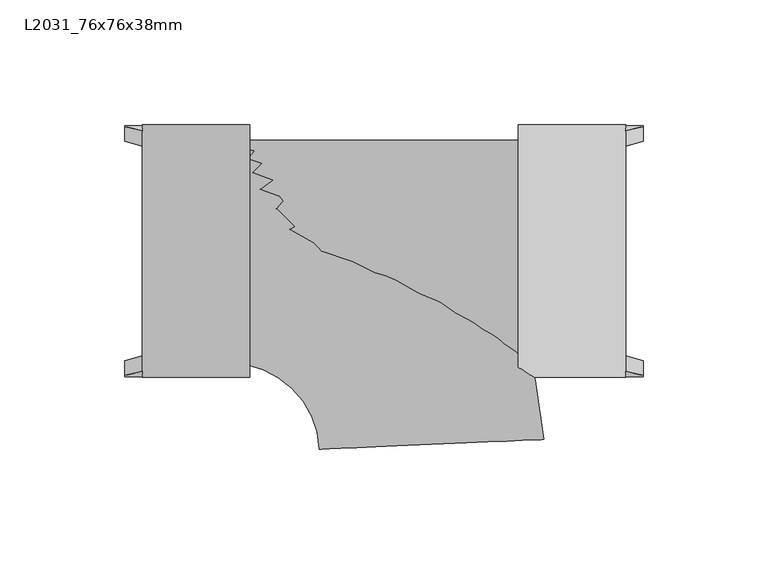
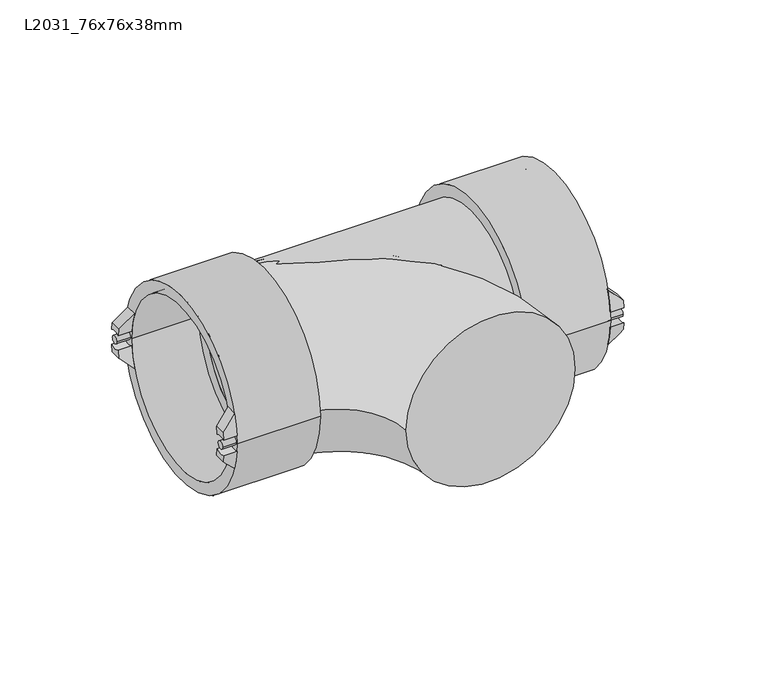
"""IFC4 building model written with IfcOpenShell, lengths in millimetres: pipe fitting geometry, Durapipe_PipeFitting_VulcatheneEnfusion_ReducingSweepTee_L20 : L2031_76x76x38mm."""

from ifc_helpers import new_model, si_unit, point, frame, frame_2d, origin, place, context, project, spatial, polyline, circle_curve, ellipse_curve, trimmed, segment, composite_curve, outline, extrude, source, transform, mapped, element, save
from ifc_brep_helpers import plane_surface, cylinder_surface, revolved_surface, advanced_brep


def l2031_76x76x38mm_b17d972e(model_context):
    return source(origin(), model_context, "Body", "SolidModel", [
        advanced_brep(
        [(-119.6406311, -44.4771742, 3.9247261), (-119.6406311, -50.3271742, 4.1743906), (-119.6406311, -49.8718999, 7.94), (-119.6406311, -43.9383534, 7.94), (-112.5406311, -48.2208461, 15.0), (-112.5406311, -50.3271742, 4.1743906), (-112.5406311, -44.4771742, 3.9247261), (-112.5406311, -42.0549938, 15.0)],
        [
            (0, 1, circle_curve(frame((-119.6406311, -47.575, 0.0), z_axis=(1.0, 0.0, 0.0), x_axis=(0.0, 1.0, 0.0)), 5.0)),
            (1, 2, circle_curve(frame((-119.6406311, 0.0, 0.0), z_axis=(-1.0, 0.0, 0.0), x_axis=(0.0, 1.0, 0.0)), 50.5)),
            (2, 3),
            (3, 0, circle_curve(frame((-119.6406311, 0.0, 0.0), z_axis=(1.0, 0.0, 0.0), x_axis=(0.0, 1.0, 0.0)), 44.65)),
            (4, 5, circle_curve(frame((-112.5406311, 0.0, 0.0), z_axis=(1.0, 0.0, 0.0), x_axis=(0.0, 1.0, 0.0)), 50.5)),
            (5, 6, circle_curve(frame((-112.5406311, -47.575, 0.0), z_axis=(-1.0, 0.0, 0.0), x_axis=(0.0, 1.0, 0.0)), 5.0)),
            (6, 7, circle_curve(frame((-112.5406311, 0.0, 0.0), z_axis=(-1.0, 0.0, 0.0), x_axis=(0.0, 1.0, 0.0)), 44.65)),
            (7, 4),
            (6, 0),
            (3, 7, ellipse_curve(frame((-127.625617, 0.0, 0.0), z_axis=(-0.705106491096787, 0.0, 0.7091014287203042), x_axis=(0.7091014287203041, 0.0, 0.705106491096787)), 63.3237682, 44.65)),
            (4, 2, ellipse_curve(frame((-127.625617, 0.0, 0.0), z_axis=(0.705106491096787, 0.0, -0.7091014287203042), x_axis=(-0.7091014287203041, 0.0, -0.705106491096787)), 71.6203873, 50.5)),
            (1, 5),
        ],
        [
            plane_surface(frame((-119.6406311, -48.2208461, 15.0), z_axis=(-1.0, 0.0, 0.0), x_axis=(0.0, 1.0, 0.0))),
            plane_surface(frame((-112.5406311, -48.2208461, 15.0), z_axis=(1.0, 0.0, 0.0), x_axis=(0.0, -1.0, 0.0))),
            revolved_surface(polyline([(-82.72264249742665, 44.65, 0.0), (-172.52859150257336, 44.65, 0.0)]), (-112.5406311, 0.0, 0.0), (1.0, 0.0, 0.0)),
            cylinder_surface(frame((-112.5406311, 0.0, 0.0), z_axis=(-1.0, 0.0, 0.0), x_axis=(0.0, 1.0, 0.0)), 50.5),
            revolved_surface(polyline([(-119.6406311, -42.575, 0.0), (-112.5406311, -42.575, 0.0)]), (-112.5406311, -47.575, 0.0), (-1.0, 0.0, 0.0)),
            plane_surface(frame((-112.5406311, 50.5, 15.0), z_axis=(-0.705106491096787, 0.0, 0.7091014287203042), x_axis=(0.0, -1.0, 0.0))),
        ],
        [
            (0, [[1, 2, 3, 4]]),
            (1, [[5, 6, 7, 8]]),
            (2, [[-7, 9, -4, 10]]),
            (3, [[-5, 11, -2, 12]]),
            (4, [[-1, -9, -6, -12]]),
            (5, [[-3, -11, -8, -10]]),
        ],
    ),
        advanced_brep(
        [(-119.6406311, -50.3271742, -4.1743906), (-119.6406311, -44.4771742, -3.9247261), (-119.6406311, -43.9383534, -7.94), (-119.6406311, -49.8718999, -7.94), (-112.5406311, -50.3271742, -4.1743906), (-112.5406311, -48.2208461, -15.0), (-112.5406311, -42.0549938, -15.0), (-112.5406311, -44.4771742, -3.9247261)],
        [
            (0, 1, circle_curve(frame((-119.6406311, -47.575, 0.0), z_axis=(1.0, 0.0, 0.0), x_axis=(0.0, 1.0, 0.0)), 5.0)),
            (1, 2, circle_curve(frame((-119.6406311, 0.0, 0.0), z_axis=(1.0, 0.0, 0.0), x_axis=(0.0, 1.0, 0.0)), 44.65)),
            (2, 3),
            (3, 0, circle_curve(frame((-119.6406311, 0.0, 0.0), z_axis=(-1.0, 0.0, 0.0), x_axis=(0.0, 1.0, 0.0)), 50.5)),
            (4, 5, circle_curve(frame((-112.5406311, 0.0, 0.0), z_axis=(1.0, 0.0, 0.0), x_axis=(0.0, 1.0, 0.0)), 50.5)),
            (5, 6),
            (6, 7, circle_curve(frame((-112.5406311, 0.0, 0.0), z_axis=(-1.0, 0.0, 0.0), x_axis=(0.0, 1.0, 0.0)), 44.65)),
            (7, 4, circle_curve(frame((-112.5406311, -47.575, 0.0), z_axis=(-1.0, 0.0, 0.0), x_axis=(0.0, 1.0, 0.0)), 5.0)),
            (6, 2, ellipse_curve(frame((-127.625617, 0.0, 0.0), z_axis=(-0.7051064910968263, 0.0, -0.7091014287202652), x_axis=(0.7091014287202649, 0.0, -0.7051064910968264)), 63.3237682, 44.65)),
            (1, 7),
            (4, 0),
            (3, 5, ellipse_curve(frame((-127.625617, 0.0, 0.0), z_axis=(0.7051064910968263, 0.0, 0.7091014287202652), x_axis=(-0.7091014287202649, 0.0, 0.7051064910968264)), 71.6203873, 50.5)),
        ],
        [
            plane_surface(frame((-119.6406311, -48.2208461, 15.0), z_axis=(-1.0, 0.0, 0.0), x_axis=(0.0, 1.0, 0.0))),
            plane_surface(frame((-112.5406311, -48.2208461, 15.0), z_axis=(1.0, 0.0, 0.0), x_axis=(0.0, -1.0, 0.0))),
            revolved_surface(polyline([(-82.72264249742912, 44.65, 0.0), (-172.5285915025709, 44.65, 0.0)]), (-112.5406311, 0.0, 0.0), (1.0, 0.0, 0.0)),
            cylinder_surface(frame((-112.5406311, 0.0, 0.0), z_axis=(-1.0, 0.0, 0.0), x_axis=(0.0, 1.0, 0.0)), 50.5),
            revolved_surface(polyline([(-119.6406311, -42.575, 0.0), (-112.5406311, -42.575, 0.0)]), (-112.5406311, -47.575, 0.0), (-1.0, 0.0, 0.0)),
            plane_surface(frame((-119.6406311, 50.5, -7.94), z_axis=(-0.7051064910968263, 0.0, -0.7091014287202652), x_axis=(0.0, -1.0, 0.0))),
        ],
        [
            (0, [[1, 2, 3, 4]]),
            (1, [[5, 6, 7, 8]]),
            (2, [[-7, 9, -2, 10]]),
            (3, [[-5, 11, -4, 12]]),
            (4, [[-1, -11, -8, -10]]),
            (5, [[-3, -9, -6, -12]]),
        ],
    ),
        advanced_brep(
        [(-119.6406311, 50.3271742, 4.1743906), (-119.6406311, 44.4771742, 3.9247261), (-119.6406311, 43.9383534, 7.94), (-119.6406311, 49.8718999, 7.94), (-112.5406311, 50.3271742, 4.1743906), (-112.5406311, 48.2208461, 15.0), (-112.5406311, 42.0549938, 15.0), (-112.5406311, 44.4771742, 3.9247261)],
        [
            (0, 1, circle_curve(frame((-119.6406311, 47.575, 0.0), z_axis=(1.0, 0.0, 0.0), x_axis=(0.0, 1.0, 0.0)), 5.0)),
            (1, 2, circle_curve(frame((-119.6406311, 0.0, 0.0), z_axis=(1.0, 0.0, 0.0), x_axis=(0.0, 1.0, 0.0)), 44.65)),
            (2, 3),
            (3, 0, circle_curve(frame((-119.6406311, 0.0, 0.0), z_axis=(-1.0, 0.0, 0.0), x_axis=(0.0, 1.0, 0.0)), 50.5)),
            (4, 5, circle_curve(frame((-112.5406311, 0.0, 0.0), z_axis=(1.0, 0.0, 0.0), x_axis=(0.0, 1.0, 0.0)), 50.5)),
            (5, 6),
            (6, 7, circle_curve(frame((-112.5406311, 0.0, 0.0), z_axis=(-1.0, 0.0, 0.0), x_axis=(0.0, 1.0, 0.0)), 44.65)),
            (7, 4, circle_curve(frame((-112.5406311, 47.575, 0.0), z_axis=(-1.0, 0.0, 0.0), x_axis=(0.0, 1.0, 0.0)), 5.0)),
            (6, 2, ellipse_curve(frame((-127.625617, 0.0, 0.0), z_axis=(-0.705106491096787, 0.0, 0.7091014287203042), x_axis=(0.7091014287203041, 0.0, 0.705106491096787)), 63.3237682, 44.65)),
            (1, 7),
            (4, 0),
            (3, 5, ellipse_curve(frame((-127.625617, 0.0, 0.0), z_axis=(0.705106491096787, 0.0, -0.7091014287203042), x_axis=(-0.7091014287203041, 0.0, -0.705106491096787)), 71.6203873, 50.5)),
        ],
        [
            plane_surface(frame((-119.6406311, -48.2208461, 15.0), z_axis=(-1.0, 0.0, 0.0), x_axis=(0.0, 1.0, 0.0))),
            plane_surface(frame((-112.5406311, -48.2208461, 15.0), z_axis=(1.0, 0.0, 0.0), x_axis=(0.0, -1.0, 0.0))),
            revolved_surface(polyline([(-82.72264249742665, 44.65, 0.0), (-172.52859150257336, 44.65, 0.0)]), (-112.5406311, 0.0, 0.0), (1.0, 0.0, 0.0)),
            cylinder_surface(frame((-112.5406311, 0.0, 0.0), z_axis=(-1.0, 0.0, 0.0), x_axis=(0.0, 1.0, 0.0)), 50.5),
            revolved_surface(polyline([(-119.6406311, 52.575, 0.0), (-112.5406311, 52.575, 0.0)]), (-112.5406311, 47.575, 0.0), (-1.0, 0.0, 0.0)),
            plane_surface(frame((-112.5406311, 50.5, 15.0), z_axis=(-0.705106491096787, 0.0, 0.7091014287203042), x_axis=(0.0, -1.0, 0.0))),
        ],
        [
            (0, [[1, 2, 3, 4]]),
            (1, [[5, 6, 7, 8]]),
            (2, [[-7, 9, -2, 10]]),
            (3, [[-5, 11, -4, 12]]),
            (4, [[-1, -11, -8, -10]]),
            (5, [[-3, -9, -6, -12]]),
        ],
    ),
        advanced_brep(
        [(-119.6406311, 44.4771742, -3.9247261), (-119.6406311, 50.3271742, -4.1743906), (-119.6406311, 49.8718999, -7.94), (-119.6406311, 43.9383534, -7.94), (-112.5406311, 48.2208461, -15.0), (-112.5406311, 50.3271742, -4.1743906), (-112.5406311, 44.4771742, -3.9247261), (-112.5406311, 42.0549938, -15.0)],
        [
            (0, 1, circle_curve(frame((-119.6406311, 47.575, 0.0), z_axis=(1.0, 0.0, 0.0), x_axis=(0.0, 1.0, 0.0)), 5.0)),
            (1, 2, circle_curve(frame((-119.6406311, 0.0, 0.0), z_axis=(-1.0, 0.0, 0.0), x_axis=(0.0, 1.0, 0.0)), 50.5)),
            (2, 3),
            (3, 0, circle_curve(frame((-119.6406311, 0.0, 0.0), z_axis=(1.0, 0.0, 0.0), x_axis=(0.0, 1.0, 0.0)), 44.65)),
            (4, 5, circle_curve(frame((-112.5406311, 0.0, 0.0), z_axis=(1.0, 0.0, 0.0), x_axis=(0.0, 1.0, 0.0)), 50.5)),
            (5, 6, circle_curve(frame((-112.5406311, 47.575, 0.0), z_axis=(-1.0, 0.0, 0.0), x_axis=(0.0, 1.0, 0.0)), 5.0)),
            (6, 7, circle_curve(frame((-112.5406311, 0.0, 0.0), z_axis=(-1.0, 0.0, 0.0), x_axis=(0.0, 1.0, 0.0)), 44.65)),
            (7, 4),
            (6, 0),
            (3, 7, ellipse_curve(frame((-127.625617, 0.0, 0.0), z_axis=(-0.7051064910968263, 0.0, -0.7091014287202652), x_axis=(0.7091014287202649, 0.0, -0.7051064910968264)), 63.3237682, 44.65)),
            (4, 2, ellipse_curve(frame((-127.625617, 0.0, 0.0), z_axis=(0.7051064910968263, 0.0, 0.7091014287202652), x_axis=(-0.7091014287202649, 0.0, 0.7051064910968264)), 71.6203873, 50.5)),
            (1, 5),
        ],
        [
            plane_surface(frame((-119.6406311, -48.2208461, 15.0), z_axis=(-1.0, 0.0, 0.0), x_axis=(0.0, 1.0, 0.0))),
            plane_surface(frame((-112.5406311, -48.2208461, 15.0), z_axis=(1.0, 0.0, 0.0), x_axis=(0.0, -1.0, 0.0))),
            revolved_surface(polyline([(-82.72264249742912, 44.65, 0.0), (-172.5285915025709, 44.65, 0.0)]), (-112.5406311, 0.0, 0.0), (1.0, 0.0, 0.0)),
            cylinder_surface(frame((-112.5406311, 0.0, 0.0), z_axis=(-1.0, 0.0, 0.0), x_axis=(0.0, 1.0, 0.0)), 50.5),
            revolved_surface(polyline([(-119.6406311, 52.575, 0.0), (-112.5406311, 52.575, 0.0)]), (-112.5406311, 47.575, 0.0), (-1.0, 0.0, 0.0)),
            plane_surface(frame((-119.6406311, 50.5, -7.94), z_axis=(-0.7051064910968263, 0.0, -0.7091014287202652), x_axis=(0.0, -1.0, 0.0))),
        ],
        [
            (0, [[1, 2, 3, 4]]),
            (1, [[5, 6, 7, 8]]),
            (2, [[-7, 9, -4, 10]]),
            (3, [[-5, 11, -2, 12]]),
            (4, [[-1, -9, -6, -12]]),
            (5, [[-3, -11, -8, -10]]),
        ],
    ),
        extrude(outline(composite_curve([segment(trimmed(circle_curve(frame_2d((-47.575, 0.0)), 2.0), [point((-49.575, 0.0))], [point((-45.575, 0.0))], False, "CARTESIAN"), True, "CONTINUOUS"), segment(trimmed(circle_curve(frame_2d((-47.575, 0.0)), 2.0), [point((-45.575, 0.0))], [point((-49.575, 0.0))], False, "CARTESIAN"), True, "CONTINUOUS")], self_intersect=False)), frame((-119.6406311, 0.0, 0.0), z_axis=(1.0, 0.0, 0.0), x_axis=(0.0, 1.0, 0.0)), (0.0, 0.0, 1.0), 7.1),
        extrude(outline(composite_curve([segment(trimmed(circle_curve(frame_2d((47.575, 0.0)), 2.0), [point((45.575, 0.0))], [point((49.575, 0.0))], False, "CARTESIAN"), True, "CONTINUOUS"), segment(trimmed(circle_curve(frame_2d((47.575, 0.0)), 2.0), [point((49.575, 0.0))], [point((45.575, 0.0))], False, "CARTESIAN"), True, "CONTINUOUS")], self_intersect=False)), frame((-119.6406311, 0.0, 0.0), z_axis=(1.0, 0.0, 0.0), x_axis=(0.0, 1.0, 0.0)), (0.0, 0.0, 1.0), 7.1),
        advanced_brep(
        [(-77.5406311, -38.0, 0.0), (-77.5406311, 38.0, 0.0), (-77.5406311, 44.5, 0.0), (-77.5406311, -44.5, 0.0), (-69.5406311, -38.0, 0.0), (-69.5406311, 38.0, 0.0), (-69.5406311, -50.65, 0.0), (-69.5406311, 50.65, 0.0), (-112.5406311, -50.65, 0.0), (-112.5406311, 50.65, 0.0), (-112.5406311, -44.5, 0.0), (-112.5406311, 44.5, 0.0)],
        [
            (0, 1, circle_curve(frame((-77.5406311, 0.0, 0.0), z_axis=(1.0, 0.0, 0.0), x_axis=(0.0, 1.0, 0.0)), 38.0)),
            (1, 2),
            (2, 3, circle_curve(frame((-77.5406311, 0.0, 0.0), z_axis=(-1.0, 0.0, 0.0), x_axis=(0.0, 1.0, 0.0)), 44.5)),
            (3, 0),
            (1, 0, circle_curve(frame((-77.5406311, 0.0, 0.0), z_axis=(1.0, 0.0, 0.0), x_axis=(0.0, 1.0, 0.0)), 38.0)),
            (3, 2, circle_curve(frame((-77.5406311, 0.0, 0.0), z_axis=(-1.0, 0.0, 0.0), x_axis=(0.0, 1.0, 0.0)), 44.5)),
            (4, 5, circle_curve(frame((-69.5406311, 0.0, 0.0), z_axis=(1.0, 0.0, 0.0), x_axis=(0.0, 1.0, 0.0)), 38.0)),
            (5, 1),
            (0, 4),
            (5, 4, circle_curve(frame((-69.5406311, 0.0, 0.0), z_axis=(1.0, 0.0, 0.0), x_axis=(0.0, 1.0, 0.0)), 38.0)),
            (6, 7, circle_curve(frame((-69.5406311, 0.0, 0.0), z_axis=(1.0, 0.0, 0.0), x_axis=(0.0, 1.0, 0.0)), 50.65)),
            (7, 5),
            (4, 6),
            (7, 6, circle_curve(frame((-69.5406311, 0.0, 0.0), z_axis=(1.0, 0.0, 0.0), x_axis=(0.0, 1.0, 0.0)), 50.65)),
            (8, 9, circle_curve(frame((-112.5406311, 0.0, 0.0), z_axis=(1.0, 0.0, 0.0), x_axis=(0.0, 1.0, 0.0)), 50.65)),
            (9, 7),
            (6, 8),
            (9, 8, circle_curve(frame((-112.5406311, 0.0, 0.0), z_axis=(1.0, 0.0, 0.0), x_axis=(0.0, 1.0, 0.0)), 50.65)),
            (10, 11, circle_curve(frame((-112.5406311, 0.0, 0.0), z_axis=(1.0, 0.0, 0.0), x_axis=(0.0, 1.0, 0.0)), 44.5)),
            (11, 9),
            (8, 10),
            (11, 10, circle_curve(frame((-112.5406311, 0.0, 0.0), z_axis=(1.0, 0.0, 0.0), x_axis=(0.0, 1.0, 0.0)), 44.5)),
            (2, 11),
            (10, 3),
        ],
        [
            plane_surface(frame((-77.5406311, 0.0, 0.0), z_axis=(-1.0, 0.0, 0.0), x_axis=(0.0, 1.0, 0.0))),
            revolved_surface(polyline([(-77.54063110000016, 38.0, 0.0), (-69.54063110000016, 38.0, 0.0)]), (-2626.5232552, 0.0, 0.0), (-1.0, 0.0, 0.0)),
            plane_surface(frame((-69.5406311, 0.0, 0.0), z_axis=(1.0, 0.0, 0.0), x_axis=(0.0, 1.0, 0.0))),
            cylinder_surface(frame((-2626.5232552, 0.0, 0.0), z_axis=(-1.0, 0.0, 0.0), x_axis=(0.0, 1.0, 0.0)), 50.65),
            plane_surface(frame((-112.5406311, 0.0, 0.0), z_axis=(-1.0, 0.0, 0.0), x_axis=(0.0, 1.0, 0.0))),
            revolved_surface(polyline([(-112.54063110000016, 44.5, 0.0), (-77.54063110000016, 44.5, 0.0)]), (-2626.5232552, 0.0, 0.0), (-1.0, 0.0, 0.0)),
        ],
        [
            (0, [[1, 2, 3, 4]]),
            (0, [[5, -4, 6, -2]]),
            (1, [[7, 8, -1, 9]]),
            (1, [[10, -9, -5, -8]]),
            (2, [[11, 12, -7, 13]]),
            (2, [[14, -13, -10, -12]]),
            (3, [[15, 16, -11, 17]]),
            (3, [[18, -17, -14, -16]]),
            (4, [[19, 20, -15, 21]]),
            (4, [[22, -21, -18, -20]]),
            (5, [[-3, 23, -19, 24]]),
            (5, [[-6, -24, -22, -23]]),
        ],
    ),
        advanced_brep(
        [(88.2593689, -44.4771742, -3.9247261), (88.2593689, -50.3271742, -4.1743906), (88.2593689, -49.8718999, -7.94), (88.2593689, -43.9383534, -7.94), (81.1593689, -48.2208461, -15.0), (81.1593689, -50.3271742, -4.1743906), (81.1593689, -44.4771742, -3.9247261), (81.1593689, -42.0549938, -15.0)],
        [
            (0, 1, circle_curve(frame((88.2593689, -47.575, 0.0), z_axis=(-1.0, 0.0, 0.0), x_axis=(0.0, 1.0, 0.0)), 5.0)),
            (1, 2, circle_curve(frame((88.2593689, 0.0, 0.0), z_axis=(1.0, 0.0, 0.0), x_axis=(0.0, 1.0, 0.0)), 50.5)),
            (2, 3),
            (3, 0, circle_curve(frame((88.2593689, 0.0, 0.0), z_axis=(-1.0, 0.0, 0.0), x_axis=(0.0, 1.0, 0.0)), 44.65)),
            (4, 5, circle_curve(frame((81.1593689, 0.0, 0.0), z_axis=(-1.0, 0.0, 0.0), x_axis=(0.0, 1.0, 0.0)), 50.5)),
            (5, 6, circle_curve(frame((81.1593689, -47.575, 0.0), z_axis=(1.0, 0.0, 0.0), x_axis=(0.0, 1.0, 0.0)), 5.0)),
            (6, 7, circle_curve(frame((81.1593689, 0.0, 0.0), z_axis=(1.0, 0.0, 0.0), x_axis=(0.0, 1.0, 0.0)), 44.65)),
            (7, 4),
            (6, 0),
            (3, 7, ellipse_curve(frame((96.2443547, 0.0, 0.0), z_axis=(0.705106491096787, 0.0, -0.7091014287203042), x_axis=(-0.7091014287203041, 0.0, -0.705106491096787)), 63.3237682, 44.65)),
            (4, 2, ellipse_curve(frame((96.2443547, 0.0, 0.0), z_axis=(-0.705106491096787, 0.0, 0.7091014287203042), x_axis=(0.7091014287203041, 0.0, 0.705106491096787)), 71.6203873, 50.5)),
            (1, 5),
        ],
        [
            plane_surface(frame((88.2593689, -48.2208461, -15.0), z_axis=(1.0, 0.0, 0.0), x_axis=(0.0, 1.0, 0.0))),
            plane_surface(frame((81.1593689, -48.2208461, -15.0), z_axis=(-1.0, 0.0, 0.0), x_axis=(0.0, -1.0, 0.0))),
            revolved_surface(polyline([(51.34138019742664, 44.65, 0.0), (141.14732920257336, 44.65, 0.0)]), (81.1593689, 0.0, 0.0), (-1.0, 0.0, 0.0)),
            cylinder_surface(frame((81.1593689, 0.0, 0.0), z_axis=(1.0, 0.0, 0.0), x_axis=(0.0, 1.0, 0.0)), 50.5),
            revolved_surface(polyline([(88.2593689, -42.575, 0.0), (81.1593689, -42.575, 0.0)]), (81.1593689, -47.575, 0.0), (1.0, 0.0, 0.0)),
            plane_surface(frame((81.1593689, 50.5, -15.0), z_axis=(0.705106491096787, 0.0, -0.7091014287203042), x_axis=(0.0, -1.0, 0.0))),
        ],
        [
            (0, [[1, 2, 3, 4]]),
            (1, [[5, 6, 7, 8]]),
            (2, [[-7, 9, -4, 10]]),
            (3, [[-5, 11, -2, 12]]),
            (4, [[-1, -9, -6, -12]]),
            (5, [[-3, -11, -8, -10]]),
        ],
    ),
        advanced_brep(
        [(88.2593689, -50.3271742, 4.1743906), (88.2593689, -44.4771742, 3.9247261), (88.2593689, -43.9383534, 7.94), (88.2593689, -49.8718999, 7.94), (81.1593689, -50.3271742, 4.1743906), (81.1593689, -48.2208461, 15.0), (81.1593689, -42.0549938, 15.0), (81.1593689, -44.4771742, 3.9247261)],
        [
            (0, 1, circle_curve(frame((88.2593689, -47.575, 0.0), z_axis=(-1.0, 0.0, 0.0), x_axis=(0.0, 1.0, 0.0)), 5.0)),
            (1, 2, circle_curve(frame((88.2593689, 0.0, 0.0), z_axis=(-1.0, 0.0, 0.0), x_axis=(0.0, 1.0, 0.0)), 44.65)),
            (2, 3),
            (3, 0, circle_curve(frame((88.2593689, 0.0, 0.0), z_axis=(1.0, 0.0, 0.0), x_axis=(0.0, 1.0, 0.0)), 50.5)),
            (4, 5, circle_curve(frame((81.1593689, 0.0, 0.0), z_axis=(-1.0, 0.0, 0.0), x_axis=(0.0, 1.0, 0.0)), 50.5)),
            (5, 6),
            (6, 7, circle_curve(frame((81.1593689, 0.0, 0.0), z_axis=(1.0, 0.0, 0.0), x_axis=(0.0, 1.0, 0.0)), 44.65)),
            (7, 4, circle_curve(frame((81.1593689, -47.575, 0.0), z_axis=(1.0, 0.0, 0.0), x_axis=(0.0, 1.0, 0.0)), 5.0)),
            (6, 2, ellipse_curve(frame((96.2443547, 0.0, 0.0), z_axis=(0.7051064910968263, 0.0, 0.7091014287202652), x_axis=(-0.7091014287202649, 0.0, 0.7051064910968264)), 63.3237682, 44.65)),
            (1, 7),
            (4, 0),
            (3, 5, ellipse_curve(frame((96.2443547, 0.0, 0.0), z_axis=(-0.7051064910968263, 0.0, -0.7091014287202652), x_axis=(0.7091014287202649, 0.0, -0.7051064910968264)), 71.6203873, 50.5)),
        ],
        [
            plane_surface(frame((88.2593689, -48.2208461, -15.0), z_axis=(1.0, 0.0, 0.0), x_axis=(0.0, 1.0, 0.0))),
            plane_surface(frame((81.1593689, -48.2208461, -15.0), z_axis=(-1.0, 0.0, 0.0), x_axis=(0.0, -1.0, 0.0))),
            revolved_surface(polyline([(51.34138019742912, 44.65, 0.0), (141.1473292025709, 44.65, 0.0)]), (81.1593689, 0.0, 0.0), (-1.0, 0.0, 0.0)),
            cylinder_surface(frame((81.1593689, 0.0, 0.0), z_axis=(1.0, 0.0, 0.0), x_axis=(0.0, 1.0, 0.0)), 50.5),
            revolved_surface(polyline([(88.2593689, -42.575, 0.0), (81.1593689, -42.575, 0.0)]), (81.1593689, -47.575, 0.0), (1.0, 0.0, 0.0)),
            plane_surface(frame((88.2593689, 50.5, 7.94), z_axis=(0.7051064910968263, 0.0, 0.7091014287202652), x_axis=(0.0, -1.0, 0.0))),
        ],
        [
            (0, [[1, 2, 3, 4]]),
            (1, [[5, 6, 7, 8]]),
            (2, [[-7, 9, -2, 10]]),
            (3, [[-5, 11, -4, 12]]),
            (4, [[-1, -11, -8, -10]]),
            (5, [[-3, -9, -6, -12]]),
        ],
    ),
        advanced_brep(
        [(88.2593689, 50.3271742, -4.1743906), (88.2593689, 44.4771742, -3.9247261), (88.2593689, 43.9383534, -7.94), (88.2593689, 49.8718999, -7.94), (81.1593689, 50.3271742, -4.1743906), (81.1593689, 48.2208461, -15.0), (81.1593689, 42.0549938, -15.0), (81.1593689, 44.4771742, -3.9247261)],
        [
            (0, 1, circle_curve(frame((88.2593689, 47.575, 0.0), z_axis=(-1.0, 0.0, 0.0), x_axis=(0.0, 1.0, 0.0)), 5.0)),
            (1, 2, circle_curve(frame((88.2593689, 0.0, 0.0), z_axis=(-1.0, 0.0, 0.0), x_axis=(0.0, 1.0, 0.0)), 44.65)),
            (2, 3),
            (3, 0, circle_curve(frame((88.2593689, 0.0, 0.0), z_axis=(1.0, 0.0, 0.0), x_axis=(0.0, 1.0, 0.0)), 50.5)),
            (4, 5, circle_curve(frame((81.1593689, 0.0, 0.0), z_axis=(-1.0, 0.0, 0.0), x_axis=(0.0, 1.0, 0.0)), 50.5)),
            (5, 6),
            (6, 7, circle_curve(frame((81.1593689, 0.0, 0.0), z_axis=(1.0, 0.0, 0.0), x_axis=(0.0, 1.0, 0.0)), 44.65)),
            (7, 4, circle_curve(frame((81.1593689, 47.575, 0.0), z_axis=(1.0, 0.0, 0.0), x_axis=(0.0, 1.0, 0.0)), 5.0)),
            (6, 2, ellipse_curve(frame((96.2443547, 0.0, 0.0), z_axis=(0.705106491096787, 0.0, -0.7091014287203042), x_axis=(-0.7091014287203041, 0.0, -0.705106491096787)), 63.3237682, 44.65)),
            (1, 7),
            (4, 0),
            (3, 5, ellipse_curve(frame((96.2443547, 0.0, 0.0), z_axis=(-0.705106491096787, 0.0, 0.7091014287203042), x_axis=(0.7091014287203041, 0.0, 0.705106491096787)), 71.6203873, 50.5)),
        ],
        [
            plane_surface(frame((88.2593689, -48.2208461, -15.0), z_axis=(1.0, 0.0, 0.0), x_axis=(0.0, 1.0, 0.0))),
            plane_surface(frame((81.1593689, -48.2208461, -15.0), z_axis=(-1.0, 0.0, 0.0), x_axis=(0.0, -1.0, 0.0))),
            revolved_surface(polyline([(51.34138019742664, 44.65, 0.0), (141.14732920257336, 44.65, 0.0)]), (81.1593689, 0.0, 0.0), (-1.0, 0.0, 0.0)),
            cylinder_surface(frame((81.1593689, 0.0, 0.0), z_axis=(1.0, 0.0, 0.0), x_axis=(0.0, 1.0, 0.0)), 50.5),
            revolved_surface(polyline([(88.2593689, 52.575, 0.0), (81.1593689, 52.575, 0.0)]), (81.1593689, 47.575, 0.0), (1.0, 0.0, 0.0)),
            plane_surface(frame((81.1593689, 50.5, -15.0), z_axis=(0.705106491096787, 0.0, -0.7091014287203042), x_axis=(0.0, -1.0, 0.0))),
        ],
        [
            (0, [[1, 2, 3, 4]]),
            (1, [[5, 6, 7, 8]]),
            (2, [[-7, 9, -2, 10]]),
            (3, [[-5, 11, -4, 12]]),
            (4, [[-1, -11, -8, -10]]),
            (5, [[-3, -9, -6, -12]]),
        ],
    ),
        advanced_brep(
        [(88.2593689, 44.4771742, 3.9247261), (88.2593689, 50.3271742, 4.1743906), (88.2593689, 49.8718999, 7.94), (88.2593689, 43.9383534, 7.94), (81.1593689, 48.2208461, 15.0), (81.1593689, 50.3271742, 4.1743906), (81.1593689, 44.4771742, 3.9247261), (81.1593689, 42.0549938, 15.0)],
        [
            (0, 1, circle_curve(frame((88.2593689, 47.575, 0.0), z_axis=(-1.0, 0.0, 0.0), x_axis=(0.0, 1.0, 0.0)), 5.0)),
            (1, 2, circle_curve(frame((88.2593689, 0.0, 0.0), z_axis=(1.0, 0.0, 0.0), x_axis=(0.0, 1.0, 0.0)), 50.5)),
            (2, 3),
            (3, 0, circle_curve(frame((88.2593689, 0.0, 0.0), z_axis=(-1.0, 0.0, 0.0), x_axis=(0.0, 1.0, 0.0)), 44.65)),
            (4, 5, circle_curve(frame((81.1593689, 0.0, 0.0), z_axis=(-1.0, 0.0, 0.0), x_axis=(0.0, 1.0, 0.0)), 50.5)),
            (5, 6, circle_curve(frame((81.1593689, 47.575, 0.0), z_axis=(1.0, 0.0, 0.0), x_axis=(0.0, 1.0, 0.0)), 5.0)),
            (6, 7, circle_curve(frame((81.1593689, 0.0, 0.0), z_axis=(1.0, 0.0, 0.0), x_axis=(0.0, 1.0, 0.0)), 44.65)),
            (7, 4),
            (6, 0),
            (3, 7, ellipse_curve(frame((96.2443547, 0.0, 0.0), z_axis=(0.7051064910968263, 0.0, 0.7091014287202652), x_axis=(-0.7091014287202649, 0.0, 0.7051064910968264)), 63.3237682, 44.65)),
            (4, 2, ellipse_curve(frame((96.2443547, 0.0, 0.0), z_axis=(-0.7051064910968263, 0.0, -0.7091014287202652), x_axis=(0.7091014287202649, 0.0, -0.7051064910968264)), 71.6203873, 50.5)),
            (1, 5),
        ],
        [
            plane_surface(frame((88.2593689, -48.2208461, -15.0), z_axis=(1.0, 0.0, 0.0), x_axis=(0.0, 1.0, 0.0))),
            plane_surface(frame((81.1593689, -48.2208461, -15.0), z_axis=(-1.0, 0.0, 0.0), x_axis=(0.0, -1.0, 0.0))),
            revolved_surface(polyline([(51.34138019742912, 44.65, 0.0), (141.1473292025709, 44.65, 0.0)]), (81.1593689, 0.0, 0.0), (-1.0, 0.0, 0.0)),
            cylinder_surface(frame((81.1593689, 0.0, 0.0), z_axis=(1.0, 0.0, 0.0), x_axis=(0.0, 1.0, 0.0)), 50.5),
            revolved_surface(polyline([(88.2593689, 52.575, 0.0), (81.1593689, 52.575, 0.0)]), (81.1593689, 47.575, 0.0), (1.0, 0.0, 0.0)),
            plane_surface(frame((88.2593689, 50.5, 7.94), z_axis=(0.7051064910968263, 0.0, 0.7091014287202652), x_axis=(0.0, -1.0, 0.0))),
        ],
        [
            (0, [[1, 2, 3, 4]]),
            (1, [[5, 6, 7, 8]]),
            (2, [[-7, 9, -4, 10]]),
            (3, [[-5, 11, -2, 12]]),
            (4, [[-1, -9, -6, -12]]),
            (5, [[-3, -11, -8, -10]]),
        ],
    ),
        extrude(outline(composite_curve([segment(trimmed(circle_curve(frame_2d((-47.575, 0.0)), 2.0), [point((-49.575, 0.0))], [point((-45.575, 0.0))], False, "CARTESIAN"), True, "CONTINUOUS"), segment(trimmed(circle_curve(frame_2d((-47.575, 0.0)), 2.0), [point((-45.575, 0.0))], [point((-49.575, 0.0))], False, "CARTESIAN"), True, "CONTINUOUS")], self_intersect=False)), frame((81.1593689, 0.0, 0.0), z_axis=(1.0, 0.0, 0.0), x_axis=(0.0, 1.0, 0.0)), (0.0, 0.0, 1.0), 7.1),
        extrude(outline(composite_curve([segment(trimmed(circle_curve(frame_2d((47.575, 0.0)), 2.0), [point((45.575, 0.0))], [point((49.575, 0.0))], False, "CARTESIAN"), True, "CONTINUOUS"), segment(trimmed(circle_curve(frame_2d((47.575, 0.0)), 2.0), [point((49.575, 0.0))], [point((45.575, 0.0))], False, "CARTESIAN"), True, "CONTINUOUS")], self_intersect=False)), frame((81.1593689, 0.0, 0.0), z_axis=(1.0, 0.0, 0.0), x_axis=(0.0, 1.0, 0.0)), (0.0, 0.0, 1.0), 7.1),
        advanced_brep(
        [(46.1593689, -38.0, 0.0), (46.1593689, 38.0, 0.0), (46.1593689, 44.5, 0.0), (46.1593689, -44.5, 0.0), (38.1593689, -38.0, 0.0), (38.1593689, 38.0, 0.0), (38.1593689, -50.65, 0.0), (38.1593689, 50.65, 0.0), (81.1593689, -50.65, 0.0), (81.1593689, 50.65, 0.0), (81.1593689, -44.5, 0.0), (81.1593689, 44.5, 0.0)],
        [
            (0, 1, circle_curve(frame((46.1593689, 0.0, 0.0), z_axis=(-1.0, 0.0, 0.0), x_axis=(0.0, 1.0, 0.0)), 38.0)),
            (1, 2),
            (2, 3, circle_curve(frame((46.1593689, 0.0, 0.0), z_axis=(1.0, 0.0, 0.0), x_axis=(0.0, 1.0, 0.0)), 44.5)),
            (3, 0),
            (1, 0, circle_curve(frame((46.1593689, 0.0, 0.0), z_axis=(-1.0, 0.0, 0.0), x_axis=(0.0, 1.0, 0.0)), 38.0)),
            (3, 2, circle_curve(frame((46.1593689, 0.0, 0.0), z_axis=(1.0, 0.0, 0.0), x_axis=(0.0, 1.0, 0.0)), 44.5)),
            (4, 5, circle_curve(frame((38.1593689, 0.0, 0.0), z_axis=(-1.0, 0.0, 0.0), x_axis=(0.0, 1.0, 0.0)), 38.0)),
            (5, 1),
            (0, 4),
            (5, 4, circle_curve(frame((38.1593689, 0.0, 0.0), z_axis=(-1.0, 0.0, 0.0), x_axis=(0.0, 1.0, 0.0)), 38.0)),
            (6, 7, circle_curve(frame((38.1593689, 0.0, 0.0), z_axis=(-1.0, 0.0, 0.0), x_axis=(0.0, 1.0, 0.0)), 50.65)),
            (7, 5),
            (4, 6),
            (7, 6, circle_curve(frame((38.1593689, 0.0, 0.0), z_axis=(-1.0, 0.0, 0.0), x_axis=(0.0, 1.0, 0.0)), 50.65)),
            (8, 9, circle_curve(frame((81.1593689, 0.0, 0.0), z_axis=(-1.0, 0.0, 0.0), x_axis=(0.0, 1.0, 0.0)), 50.65)),
            (9, 7),
            (6, 8),
            (9, 8, circle_curve(frame((81.1593689, 0.0, 0.0), z_axis=(-1.0, 0.0, 0.0), x_axis=(0.0, 1.0, 0.0)), 50.65)),
            (10, 11, circle_curve(frame((81.1593689, 0.0, 0.0), z_axis=(-1.0, 0.0, 0.0), x_axis=(0.0, 1.0, 0.0)), 44.5)),
            (11, 9),
            (8, 10),
            (11, 10, circle_curve(frame((81.1593689, 0.0, 0.0), z_axis=(-1.0, 0.0, 0.0), x_axis=(0.0, 1.0, 0.0)), 44.5)),
            (2, 11),
            (10, 3),
        ],
        [
            plane_surface(frame((46.1593689, 0.0, 0.0), z_axis=(1.0, 0.0, 0.0), x_axis=(0.0, 1.0, 0.0))),
            revolved_surface(polyline([(46.15936890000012, 38.0, 0.0), (38.15936890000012, 38.0, 0.0)]), (2595.1419929, 0.0, 0.0), (1.0, 0.0, 0.0)),
            plane_surface(frame((38.1593689, 0.0, 0.0), z_axis=(-1.0, 0.0, 0.0), x_axis=(0.0, 1.0, 0.0))),
            cylinder_surface(frame((2595.1419929, 0.0, 0.0), z_axis=(1.0, 0.0, 0.0), x_axis=(0.0, 1.0, 0.0)), 50.65),
            plane_surface(frame((81.1593689, 0.0, 0.0), z_axis=(1.0, 0.0, 0.0), x_axis=(0.0, 1.0, 0.0))),
            revolved_surface(polyline([(81.15936890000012, 44.5, 0.0), (46.15936890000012, 44.5, 0.0)]), (2595.1419929, 0.0, 0.0), (1.0, 0.0, 0.0)),
        ],
        [
            (0, [[1, 2, 3, 4]]),
            (0, [[5, -4, 6, -2]]),
            (1, [[7, 8, -1, 9]]),
            (1, [[10, -9, -5, -8]]),
            (2, [[11, 12, -7, 13]]),
            (2, [[14, -13, -10, -12]]),
            (3, [[15, 16, -11, 17]]),
            (3, [[18, -17, -14, -16]]),
            (4, [[19, 20, -15, 21]]),
            (4, [[22, -21, -18, -20]]),
            (5, [[-3, 23, -19, 24]]),
            (5, [[-6, -24, -22, -23]]),
        ],
    ),
        advanced_brep(
        [(-77.5406311, -45.0, 0.0), (-77.5406311, 45.0, 0.0), (-41.5748951, -79.4297021, 0.0), (48.3394448, -75.5039572, 0.0)],
        [
            (0, 1, circle_curve(frame((-77.5406311, 0.0, 0.0), z_axis=(-1.0, 0.0, 0.0), x_axis=(0.0, 1.0, 0.0)), 45.0)),
            (1, 0, circle_curve(frame((-77.5406311, 0.0, 0.0), z_axis=(-1.0, 0.0, 0.0), x_axis=(0.0, 1.0, 0.0)), 45.0)),
            (2, 3, circle_curve(frame((3.3822748, -77.4668296, 0.0), z_axis=(0.0436193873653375, -0.9990482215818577, 0.0), x_axis=(0.9990482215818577, 0.0436193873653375, 0.0)), 45.0)),
            (3, 2, circle_curve(frame((3.3822748, -77.4668296, 0.0), z_axis=(0.0436193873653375, -0.9990482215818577, 0.0), x_axis=(0.9990482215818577, 0.0436193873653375, 0.0)), 45.0)),
            (0, 2, circle_curve(frame((-77.5406311, -81.0, 0.0), z_axis=(0.0, 0.0, -1.0), x_axis=(0.0, 1.0, 0.0)), 36.0)),
            (3, 1, circle_curve(frame((-77.5406311, -81.0, 0.0), z_axis=(0.0, 0.0, 1.0), x_axis=(0.0, 1.0, 0.0)), 126.0)),
        ],
        [
            plane_surface(frame((-77.5406311, 0.0, 0.0), z_axis=(-1.0, 0.0, 0.0), x_axis=(0.0, 0.0, 1.0))),
            plane_surface(frame((3.3822748, -77.4668296, 0.0), z_axis=(0.0436193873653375, -0.9990482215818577, 0.0), x_axis=(0.0, 0.0, 1.0))),
            revolved_surface(trimmed(ellipse_curve(frame((-77.5406311, 0.0, 0.0), z_axis=(-1.0, 0.0, 0.0), x_axis=(0.0, 1.0, 0.0)), 45.0, 45.0), [point((-77.5406311, -45.0, 0.0))], [point((-77.5406311, 45.0, 0.0))], True, "CARTESIAN"), (-77.5406311, -81.0, 0.0), (0.0, 0.0, -1.0)),
            revolved_surface(trimmed(ellipse_curve(frame((-77.5406311, 0.0, 0.0), z_axis=(-1.0, 0.0, 0.0), x_axis=(0.0, 1.0, 0.0)), 45.0, 45.0), [point((-77.5406311, 45.0, 0.0))], [point((-77.5406311, -45.0, 0.0))], True, "CARTESIAN"), (-77.5406311, -81.0, 0.0), (0.0, 0.0, -1.0)),
        ],
        [
            (0, [[1, 2]]),
            (1, [[3, 4]]),
            (2, [[-1, 5, -4, 6]]),
            (3, [[-2, -6, -3, -5]]),
        ],
    ),
        advanced_brep(
        [(-77.5406311, -44.5, 0.0), (-77.5406311, 44.5, 0.0), (46.1593689, 44.5, 0.0), (46.1593689, -44.5, 0.0), (-77.5406311, 0.0, 0.0), (46.1593689, 0.0, 0.0)],
        [
            (0, 1, circle_curve(frame((-77.5406311, 0.0, 0.0), z_axis=(1.0, 0.0, 0.0), x_axis=(0.0, 1.0, 0.0)), 44.5)),
            (1, 2),
            (2, 3, circle_curve(frame((46.1593689, 0.0, 0.0), z_axis=(-1.0, 0.0, 0.0), x_axis=(0.0, 1.0, 0.0)), 44.5)),
            (3, 0),
            (1, 0, circle_curve(frame((-77.5406311, 0.0, 0.0), z_axis=(1.0, 0.0, 0.0), x_axis=(0.0, 1.0, 0.0)), 44.5)),
            (3, 2, circle_curve(frame((46.1593689, 0.0, 0.0), z_axis=(-1.0, 0.0, 0.0), x_axis=(0.0, 1.0, 0.0)), 44.5)),
            (4, 1),
            (0, 4),
            (2, 5),
            (5, 3),
        ],
        [
            cylinder_surface(frame((-57.5406311, 0.0, 0.0), z_axis=(-1.0, 0.0, 0.0), x_axis=(0.0, 1.0, 0.0)), 44.5),
            plane_surface(frame((-77.5406311, 0.0, 0.0), z_axis=(-1.0, 0.0, 0.0), x_axis=(0.0, 1.0, 0.0))),
            plane_surface(frame((46.1593689, 0.0, 0.0), z_axis=(1.0, 0.0, 0.0), x_axis=(0.0, 1.0, 0.0))),
        ],
        [
            (0, [[1, 2, 3, 4]]),
            (0, [[5, -4, 6, -2]]),
            (1, [[7, -1, 8]]),
            (1, [[-8, -5, -7]]),
            (2, [[-3, 9, 10]]),
            (2, [[-6, -10, -9]]),
        ],
    ),
    ])


if __name__ == "__main__":
    model = new_model("IFC4")
    model_context = context("Model", 3, world=origin())
    ifc_project = project(units=[si_unit("LENGTHUNIT", "METRE", prefix="MILLI")], contexts=[model_context])
    site = spatial("IfcSite", under=ifc_project)
    building = spatial("IfcBuilding", under=site)
    placement = place(None, origin())
    l2031_76x76x38mm_shape = l2031_76x76x38mm_b17d972e(model_context)
    element("IfcPipeFitting", 1, ObjectType="Durapipe_PipeFitting_VulcatheneEnfusion_ReducingSweepTee_L20 : L2031_76x76x38mm", at=placement, inside=building, context=model_context, shape_type="MappedRepresentation", body=[
        mapped(l2031_76x76x38mm_shape, transform((0.0, 0.0, 0.0), x_axis=(1.0, 0.0, 0.0), y_axis=(0.0, 1.0, 0.0), z_axis=(0.0, 0.0, 1.0))),
    ])
    save(model, "model.ifc")
